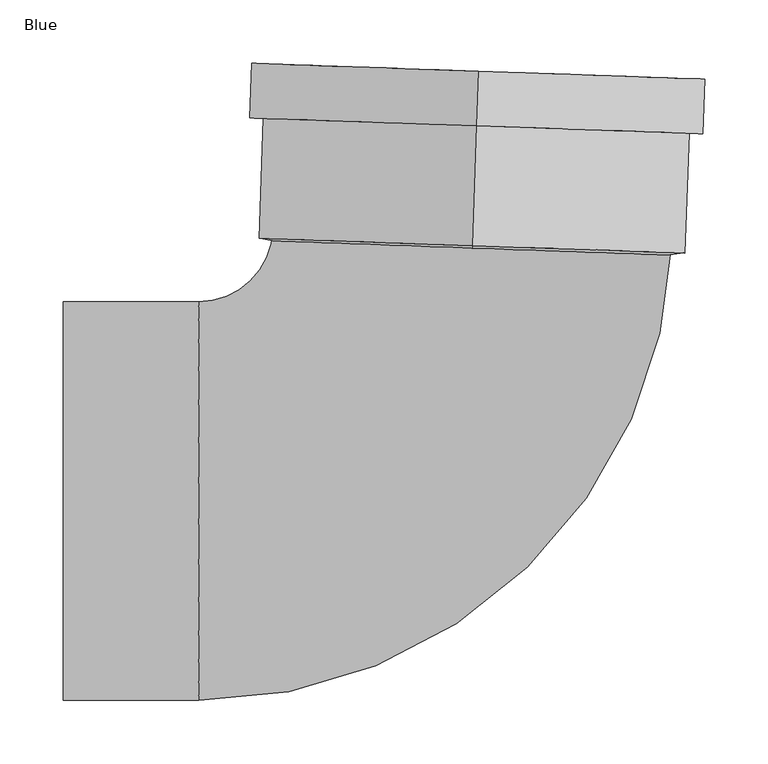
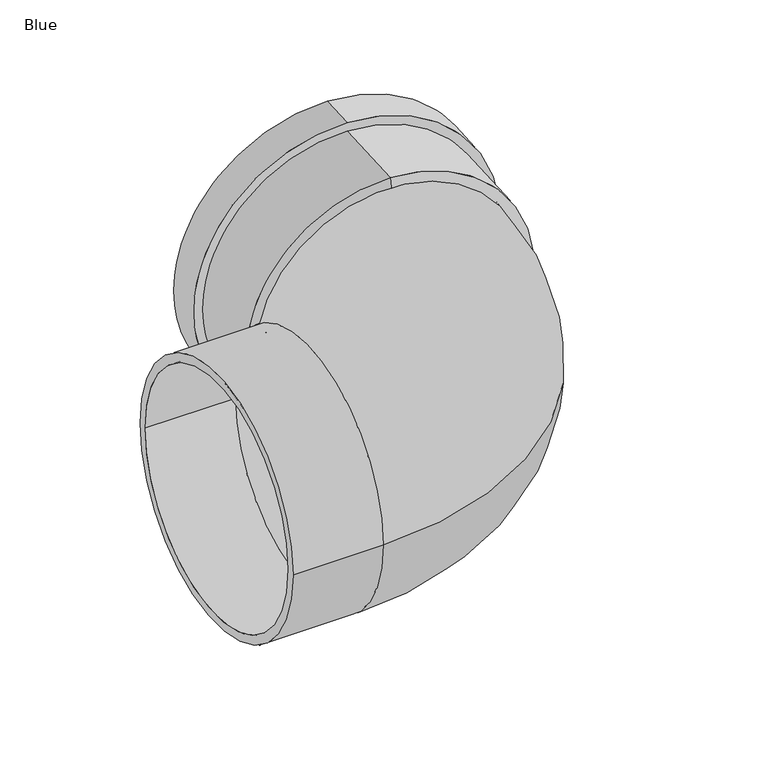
"""IFC4 building model written with IfcOpenShell, lengths in millimetres: pipe fitting geometry, AWADUKT PP SN10 Bend : Blue."""

from ifc_helpers import new_model, si_unit, point, frame, origin, place, context, project, spatial, polyline, circle_curve, ellipse_curve, trimmed, source, transform, mapped, element, save
from ifc_brep_helpers import plane_surface, cylinder_surface, revolved_surface, advanced_brep


def blue_db9835d6(model_context):
    return source(origin(), model_context, "Body", "AdvancedBrep", [
        advanced_brep(
        [(10.3477008, 296.3193802, 168.3), (10.3477008, 296.3193802, -168.3), (7.0441861, 201.7190986, -168.3), (7.0441861, 201.7190986, 168.3), (11.855359, 339.4930639, 179.1), (11.855359, 339.4930639, -179.1), (10.3477008, 296.3193802, -179.1), (10.3477008, 296.3193802, 179.1), (11.4784445, 328.699643, 157.5), (11.4784445, 328.699643, -157.5), (11.855359, 339.4930639, -157.5), (11.855359, 339.4930639, 157.5), (10.7246153, 307.1128011, 168.3), (10.7246153, 307.1128011, -168.3), (11.4784445, 328.699643, -168.3), (11.4784445, 328.699643, 168.3), (7.360455, 210.7758542, 157.5), (7.360455, 210.7758542, -157.5), (10.7246153, 307.1128011, -157.5), (10.7246153, 307.1128011, 157.5), (7.2939948, 208.8726828, 146.7), (7.2939948, 208.8726828, -146.7), (6.9112657, 197.912756, 146.7), (6.9112657, 197.912756, -146.7)],
        [
            (0, 1, circle_curve(frame((10.3477008, 296.3193802, 0.0), z_axis=(-0.03489949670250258, -0.9993908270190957, 0.0), x_axis=(0.0, 0.0, -1.0)), 168.3)),
            (1, 2),
            (2, 3, circle_curve(frame((7.0441861, 201.7190986, 0.0), z_axis=(0.03489949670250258, 0.9993908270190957, 0.0), x_axis=(0.0, 0.0, -1.0)), 168.3)),
            (3, 0),
            (4, 5, circle_curve(frame((11.855359, 339.4930639, 0.0), z_axis=(-0.03489949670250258, -0.9993908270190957, 0.0), x_axis=(0.0, 0.0, -1.0)), 179.1)),
            (5, 6),
            (6, 7, circle_curve(frame((10.3477008, 296.3193802, 0.0), z_axis=(0.03489949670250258, 0.9993908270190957, 0.0), x_axis=(0.0, 0.0, -1.0)), 179.1)),
            (7, 4),
            (8, 9, circle_curve(frame((11.4784445, 328.699643, 0.0), z_axis=(-0.03489949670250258, -0.9993908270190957, 0.0), x_axis=(0.0, 0.0, -1.0)), 157.5)),
            (9, 10),
            (10, 11, circle_curve(frame((11.855359, 339.4930639, 0.0), z_axis=(0.03489949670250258, 0.9993908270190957, 0.0), x_axis=(0.0, 0.0, -1.0)), 157.5)),
            (11, 8),
            (12, 13, circle_curve(frame((10.7246153, 307.1128011, 0.0), z_axis=(-0.03489949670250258, -0.9993908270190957, 0.0), x_axis=(0.0, 0.0, -1.0)), 168.3)),
            (13, 14),
            (14, 15, circle_curve(frame((11.4784445, 328.699643, 0.0), z_axis=(0.03489949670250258, 0.9993908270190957, 0.0), x_axis=(0.0, 0.0, -1.0)), 168.3)),
            (15, 12),
            (16, 17, circle_curve(frame((7.360455, 210.7758542, 0.0), z_axis=(-0.03489949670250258, -0.9993908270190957, 0.0), x_axis=(0.0, 0.0, -1.0)), 157.5)),
            (17, 18),
            (18, 19, circle_curve(frame((10.7246153, 307.1128011, 0.0), z_axis=(0.03489949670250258, 0.9993908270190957, 0.0), x_axis=(0.0, 0.0, -1.0)), 157.5)),
            (19, 16),
            (20, 21, circle_curve(frame((7.2939948, 208.8726828, 0.0), z_axis=(-0.03489949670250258, -0.9993908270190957, 0.0), x_axis=(0.0, 0.0, -1.0)), 146.7)),
            (21, 17),
            (16, 20),
            (22, 23, circle_curve(frame((6.9112657, 197.912756, 0.0), z_axis=(-0.03489949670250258, -0.9993908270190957, 0.0), x_axis=(0.0, 0.0, -1.0)), 146.7)),
            (23, 21),
            (20, 22),
            (2, 23),
            (22, 3),
            (1, 0, circle_curve(frame((10.3477008, 296.3193802, 0.0), z_axis=(-0.03489949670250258, -0.9993908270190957, 0.0), x_axis=(0.0, 0.0, 1.0)), 168.3)),
            (3, 2, circle_curve(frame((7.0441861, 201.7190986, 0.0), z_axis=(0.03489949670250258, 0.9993908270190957, 0.0), x_axis=(0.0, 0.0, 1.0)), 168.3)),
            (6, 7, circle_curve(frame((10.3477008, 296.3193802, 0.0), z_axis=(-0.03489949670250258, -0.9993908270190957, 0.0), x_axis=(0.0, 0.0, 1.0)), 179.1)),
            (5, 4, circle_curve(frame((11.855359, 339.4930639, 0.0), z_axis=(-0.03489949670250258, -0.9993908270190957, 0.0), x_axis=(0.0, 0.0, 1.0)), 179.1)),
            (10, 11, circle_curve(frame((11.855359, 339.4930639, 0.0), z_axis=(-0.03489949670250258, -0.9993908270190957, 0.0), x_axis=(0.0, 0.0, 1.0)), 157.5)),
            (9, 8, circle_curve(frame((11.4784445, 328.699643, 0.0), z_axis=(-0.03489949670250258, -0.9993908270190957, 0.0), x_axis=(0.0, 0.0, 1.0)), 157.5)),
            (14, 15, circle_curve(frame((11.4784445, 328.699643, 0.0), z_axis=(-0.03489949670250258, -0.9993908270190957, 0.0), x_axis=(0.0, 0.0, 1.0)), 168.3)),
            (13, 12, circle_curve(frame((10.7246153, 307.1128011, 0.0), z_axis=(-0.03489949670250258, -0.9993908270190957, 0.0), x_axis=(0.0, 0.0, 1.0)), 168.3)),
            (18, 19, circle_curve(frame((10.7246153, 307.1128011, 0.0), z_axis=(-0.03489949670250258, -0.9993908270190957, 0.0), x_axis=(0.0, 0.0, 1.0)), 157.5)),
            (17, 16, circle_curve(frame((7.360455, 210.7758542, 0.0), z_axis=(-0.03489949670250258, -0.9993908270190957, 0.0), x_axis=(0.0, 0.0, 1.0)), 157.5)),
            (21, 20, circle_curve(frame((7.2939948, 208.8726828, 0.0), z_axis=(-0.03489949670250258, -0.9993908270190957, 0.0), x_axis=(0.0, 0.0, 1.0)), 146.7)),
            (23, 22, circle_curve(frame((6.9112657, 197.912756, 0.0), z_axis=(-0.03489949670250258, -0.9993908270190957, 0.0), x_axis=(0.0, 0.0, 1.0)), 146.7)),
        ],
        [
            cylinder_surface(frame((7.2939948, 208.8726828, 0.0), z_axis=(0.03489949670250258, 0.9993908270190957, 0.0), x_axis=(0.0, 0.0, -1.0)), 168.3),
            cylinder_surface(frame((7.2939948, 208.8726828, 0.0), z_axis=(0.03489949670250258, 0.9993908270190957, 0.0), x_axis=(0.0, 0.0, -1.0)), 179.1),
            revolved_surface(polyline([(11.855359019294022, 339.4930638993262, -157.5), (11.478444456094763, 328.6996430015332, -157.5)]), (7.2939948, 208.8726828, 0.0), (0.03489949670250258, 0.9993908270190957, 0.0)),
            revolved_surface(polyline([(11.478444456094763, 328.6996430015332, -168.3), (10.724615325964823, 307.1128010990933, -168.3)]), (7.2939948, 208.8726828, 0.0), (0.03489949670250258, 0.9993908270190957, 0.0)),
            revolved_surface(polyline([(10.724615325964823, 307.1128010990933, -157.5), (7.360455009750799, 210.7758541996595, -157.5)]), (7.2939948, 208.8726828, 0.0), (0.03489949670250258, 0.9993908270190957, 0.0)),
            revolved_surface(polyline([(7.360455, 210.7758542, -157.5), (7.2939948, 208.8726828, -146.7)]), (7.2939948, 208.8726828, 0.0), (0.03489949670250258, 0.9993908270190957, 0.0)),
            revolved_surface(polyline([(7.2939948, 208.8726828, -146.7), (6.911265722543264, 197.91275599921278, -146.7)]), (7.2939948, 208.8726828, 0.0), (0.03489949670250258, 0.9993908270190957, 0.0)),
            revolved_surface(polyline([(6.9112657, 197.912756, -146.7), (7.0441861, 201.7190986, -168.3)]), (7.2939948, 208.8726828, 0.0), (0.03489949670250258, 0.9993908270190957, 0.0)),
            cylinder_surface(frame((7.2939948, 208.8726828, 0.0), z_axis=(0.03489949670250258, 0.9993908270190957, 0.0), x_axis=(0.0, 0.0, 1.0)), 168.3),
            plane_surface(frame((10.3477008, 296.3193802, 0.0), z_axis=(-0.03489949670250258, -0.9993908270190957, 0.0), x_axis=(0.0, 0.0, 1.0))),
            cylinder_surface(frame((7.2939948, 208.8726828, 0.0), z_axis=(0.03489949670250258, 0.9993908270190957, 0.0), x_axis=(0.0, 0.0, 1.0)), 179.1),
            plane_surface(frame((11.855359, 339.4930639, 0.0), z_axis=(0.03489949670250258, 0.9993908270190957, 0.0), x_axis=(0.0, 0.0, 1.0))),
            revolved_surface(polyline([(11.855359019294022, 339.4930638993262, 157.5), (11.478444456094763, 328.6996430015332, 157.5)]), (7.2939948, 208.8726828, 0.0), (0.03489949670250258, 0.9993908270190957, 0.0)),
            plane_surface(frame((11.4784445, 328.699643, 0.0), z_axis=(-0.03489949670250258, -0.9993908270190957, 0.0), x_axis=(0.0, 0.0, 1.0))),
            revolved_surface(polyline([(11.478444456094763, 328.6996430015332, 168.3), (10.724615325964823, 307.1128010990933, 168.3)]), (7.2939948, 208.8726828, 0.0), (0.03489949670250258, 0.9993908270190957, 0.0)),
            plane_surface(frame((10.7246153, 307.1128011, 0.0), z_axis=(0.03489949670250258, 0.9993908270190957, 0.0), x_axis=(0.0, 0.0, 1.0))),
            revolved_surface(polyline([(10.724615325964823, 307.1128010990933, 157.5), (7.360455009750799, 210.7758541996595, 157.5)]), (7.2939948, 208.8726828, 0.0), (0.03489949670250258, 0.9993908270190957, 0.0)),
            revolved_surface(polyline([(7.360455, 210.7758542, 157.5), (7.2939948, 208.8726828, 146.7)]), (7.2939948, 208.8726828, 0.0), (0.03489949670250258, 0.9993908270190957, 0.0)),
            revolved_surface(polyline([(7.2939948, 208.8726828, 146.7), (6.911265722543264, 197.91275599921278, 146.7)]), (7.2939948, 208.8726828, 0.0), (0.03489949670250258, 0.9993908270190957, 0.0)),
            revolved_surface(polyline([(6.9112657, 197.912756, 146.7), (7.0441861, 201.7190986, 168.3)]), (7.2939948, 208.8726828, 0.0), (0.03489949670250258, 0.9993908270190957, 0.0)),
        ],
        [
            (0, [[1, 2, 3, 4]]),
            (1, [[5, 6, 7, 8]]),
            (2, [[9, 10, 11, 12]]),
            (3, [[13, 14, 15, 16]]),
            (4, [[17, 18, 19, 20]]),
            (5, [[21, 22, -17, 23]]),
            (6, [[24, 25, -21, 26]]),
            (7, [[-3, 27, -24, 28]]),
            (8, [[29, -4, 30, -2]]),
            (9, [[31, -7], [-29, -1]]),
            (10, [[32, -8, -31, -6]]),
            (11, [[-32, -5], [33, -11]]),
            (12, [[34, -12, -33, -10]]),
            (13, [[35, -15], [-34, -9]]),
            (14, [[36, -16, -35, -14]]),
            (15, [[-36, -13], [37, -19]]),
            (16, [[38, -20, -37, -18]]),
            (17, [[39, -23, -38, -22]]),
            (18, [[40, -26, -39, -25]]),
            (19, [[-30, -28, -40, -27]]),
        ],
    ),
        advanced_brep(
        [(-316.0, -157.5, 0.0), (-316.0, 157.5, 0.0), (-316.0, -146.7, 0.0), (-316.0, 146.7, 0.0), (164.6980501, 203.3760121, 0.0), (-150.1100604, 214.3693536, 0.0), (153.9046291, 203.7529267, 0.0), (-139.3166395, 213.992439, 0.0), (-209.0, -146.7, 0.0), (-209.0, 146.7, 0.0), (-209.0, -157.5, 0.0), (-209.0, 157.5, 0.0)],
        [
            (0, 1, circle_curve(frame((-316.0, 0.0, 0.0), z_axis=(-1.0, 0.0, 0.0), x_axis=(0.0, 1.0, 0.0)), 157.5)),
            (1, 0, circle_curve(frame((-316.0, 0.0, 0.0), z_axis=(-1.0, 0.0, 0.0), x_axis=(0.0, 1.0, 0.0)), 157.5)),
            (2, 3, circle_curve(frame((-316.0, 0.0, 0.0), z_axis=(1.0, 0.0, 0.0), x_axis=(0.0, 1.0, 0.0)), 146.7)),
            (3, 2, circle_curve(frame((-316.0, 0.0, 0.0), z_axis=(1.0, 0.0, 0.0), x_axis=(0.0, 1.0, 0.0)), 146.7)),
            (4, 5, circle_curve(frame((7.2939948, 208.8726828, 0.0), z_axis=(0.03489949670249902, 0.9993908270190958, 0.0), x_axis=(-0.9993908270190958, 0.03489949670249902, 0.0)), 157.5)),
            (5, 4, circle_curve(frame((7.2939948, 208.8726828, 0.0), z_axis=(0.03489949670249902, 0.9993908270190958, 0.0), x_axis=(-0.9993908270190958, 0.03489949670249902, 0.0)), 157.5)),
            (6, 7, circle_curve(frame((7.2939948, 208.8726828, 0.0), z_axis=(-0.03489949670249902, -0.9993908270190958, 0.0), x_axis=(-0.9993908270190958, 0.03489949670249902, 0.0)), 146.7)),
            (7, 6, circle_curve(frame((7.2939948, 208.8726828, 0.0), z_axis=(-0.03489949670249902, -0.9993908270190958, 0.0), x_axis=(-0.9993908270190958, 0.03489949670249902, 0.0)), 146.7)),
            (2, 8),
            (8, 9, circle_curve(frame((-209.0, 0.0, 0.0), z_axis=(1.0, 0.0, 0.0), x_axis=(0.0, 1.0, 0.0)), 146.7)),
            (9, 3),
            (9, 8, circle_curve(frame((-209.0, 0.0, 0.0), z_axis=(1.0, 0.0, 0.0), x_axis=(0.0, 1.0, 0.0)), 146.7)),
            (0, 10),
            (10, 11, circle_curve(frame((-209.0, 0.0, 0.0), z_axis=(-1.0, 0.0, 0.0), x_axis=(0.0, 1.0, 0.0)), 157.5)),
            (11, 1),
            (11, 10, circle_curve(frame((-209.0, 0.0, 0.0), z_axis=(-1.0, 0.0, 0.0), x_axis=(0.0, 1.0, 0.0)), 157.5)),
            (7, 9, circle_curve(frame((-209.0, 216.4258356, 0.0), z_axis=(0.0, 0.0, -1.0), x_axis=(0.0, -1.0, 0.0)), 69.7258356)),
            (8, 6, circle_curve(frame((-209.0, 216.4258356, 0.0), z_axis=(0.0, 0.0, 1.0), x_axis=(0.0, -1.0, 0.0)), 363.1258356)),
            (5, 11, circle_curve(frame((-209.0, 216.4258356, 0.0), z_axis=(0.0, 0.0, -1.0), x_axis=(0.0, -1.0, 0.0)), 58.9258356)),
            (10, 4, circle_curve(frame((-209.0, 216.4258356, 0.0), z_axis=(0.0, 0.0, 1.0), x_axis=(0.0, -1.0, 0.0)), 373.9258356)),
        ],
        [
            plane_surface(frame((-316.0, 0.0, 0.0), z_axis=(-1.0, 0.0, 0.0), x_axis=(0.0, 0.0, 1.0))),
            plane_surface(frame((7.2939948, 208.8726828, 0.0), z_axis=(0.03489949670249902, 0.9993908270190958, 0.0), x_axis=(0.0, 0.0, 1.0))),
            revolved_surface(polyline([(-209.0, 146.7, 0.0), (-316.0, 146.7, 0.0)]), (-316.0, 0.0, 0.0), (1.0, 0.0, 0.0)),
            cylinder_surface(frame((-316.0, 0.0, 0.0), z_axis=(-1.0, 0.0, 0.0), x_axis=(0.0, 1.0, 0.0)), 157.5),
            revolved_surface(trimmed(ellipse_curve(frame((-209.0, 0.0, 0.0), z_axis=(1.0, 0.0, 0.0), x_axis=(0.0, 1.0, 0.0)), 146.7, 146.7), [point((-209.0, -146.7, 0.0))], [point((-209.0, 146.7, 0.0))], True, "CARTESIAN"), (-209.0, 216.4258356, 0.0), (0.0, 0.0, 1.0)),
            revolved_surface(trimmed(ellipse_curve(frame((-209.0, 0.0, 0.0), z_axis=(1.0, 0.0, 0.0), x_axis=(0.0, 1.0, 0.0)), 146.7, 146.7), [point((-209.0, 146.7, 0.0))], [point((-209.0, -146.7, 0.0))], True, "CARTESIAN"), (-209.0, 216.4258356, 0.0), (0.0, 0.0, 1.0)),
            revolved_surface(trimmed(ellipse_curve(frame((-209.0, 0.0, 0.0), z_axis=(-1.0, 0.0, 0.0), x_axis=(0.0, 1.0, 0.0)), 157.5, 157.5), [point((-209.0, -157.5, 0.0))], [point((-209.0, 157.5, 0.0))], True, "CARTESIAN"), (-209.0, 216.4258356, 0.0), (0.0, 0.0, 1.0)),
            revolved_surface(trimmed(ellipse_curve(frame((-209.0, 0.0, 0.0), z_axis=(-1.0, 0.0, 0.0), x_axis=(0.0, 1.0, 0.0)), 157.5, 157.5), [point((-209.0, 157.5, 0.0))], [point((-209.0, -157.5, 0.0))], True, "CARTESIAN"), (-209.0, 216.4258356, 0.0), (0.0, 0.0, 1.0)),
        ],
        [
            (0, [[1, 2], [3, 4]]),
            (1, [[5, 6], [7, 8]]),
            (2, [[-3, 9, 10, 11]]),
            (2, [[-4, -11, 12, -9]]),
            (3, [[-1, 13, 14, 15]]),
            (3, [[-2, -15, 16, -13]]),
            (4, [[17, -10, 18, -8]]),
            (5, [[-18, -12, -17, -7]]),
            (6, [[19, -14, 20, -6]]),
            (7, [[-20, -16, -19, -5]]),
        ],
    ),
    ])


if __name__ == "__main__":
    model = new_model("IFC4")
    model_context = context("Model", 3, world=origin())
    ifc_project = project(units=[si_unit("LENGTHUNIT", "METRE", prefix="MILLI")], contexts=[model_context])
    site = spatial("IfcSite", under=ifc_project)
    building = spatial("IfcBuilding", under=site)
    placement = place(None, origin())
    blue_shape = blue_db9835d6(model_context)
    element("IfcPipeFitting", 1, ObjectType="AWADUKT PP SN10 Bend : Blue", at=placement, inside=building, context=model_context, shape_type="MappedRepresentation", body=[
        mapped(blue_shape, transform((0.0, 0.0, 0.0), x_axis=(1.0, 0.0, 0.0), y_axis=(0.0, 1.0, 0.0), z_axis=(0.0, 0.0, 1.0))),
    ])
    save(model, "model.ifc")
